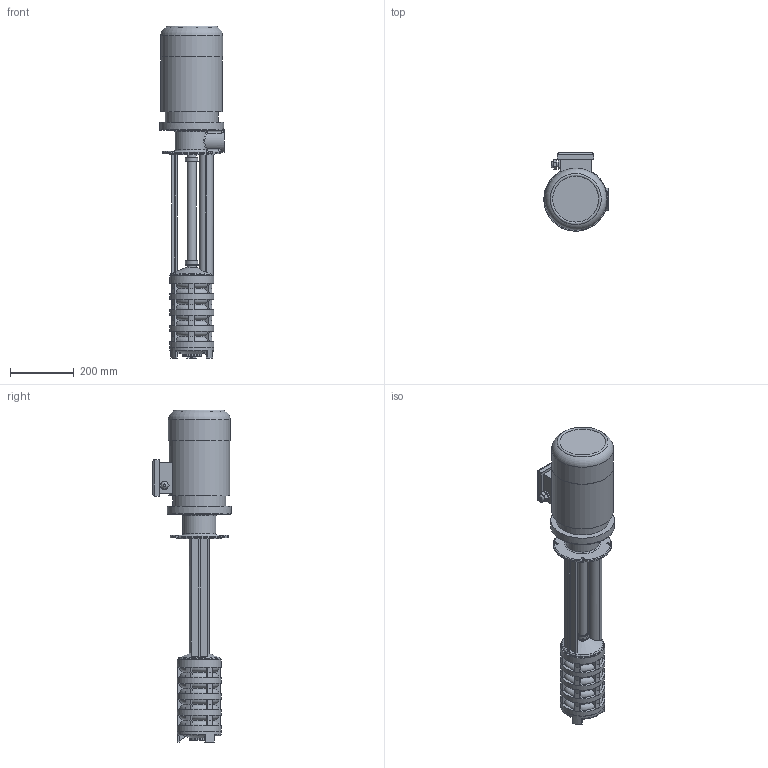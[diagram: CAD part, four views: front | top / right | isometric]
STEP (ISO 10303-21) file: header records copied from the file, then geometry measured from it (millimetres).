
FILE_DESCRIPTION(/* description */ ('Unknown'),/* implementation_level */ '2;1');
FILE_NAME(/* name */ 'gp5-640',/* time_stamp */ '2025-06-12T11:06:59+03:00',/* author */ ('Unknown'),/* organization */ ('Unknown'),/* preprocessor_version */ 'ST-DEVELOPER v16.7',/* originating_system */ 'DEX',/* authorisation */ $);
FILE_SCHEMA (('AUTOMOTIVE_DESIGN {1 0 10303 214 3 1 1}'));
Length unit declared in the file: millimetre
Products named in the file (1): gp5-640
Bounding box: 202 x 245.5 x 1040.5 mm (x, y, z)
Volume: 15435309.6 mm3; surface area: 694187.6 mm2
Topology: 1 solids, 1 shells, 474 faces, 1260 edges, 819 vertices
Faces by surface type: plane 158, cylinder 94, bspline 84, cone 73, torus 65
Full cylindrical faces by diameter (mm): 17 x1, 21.5 x1, 29 x3, 33 x2, 35 x2, 39 x2, 40.5 x2, 45 x1, 47 x1, 60 x1, 137 x1, 139 x5, 140 x1, 165 x1, 192.353 x1, 194 x1, 200 x1
Entity records: 17323 total; most frequent: CARTESIAN_POINT 6092, ORIENTED_EDGE 2374, DIRECTION 2213, EDGE_CURVE 1187, AXIS2_PLACEMENT_3D 842, VERTEX_POINT 803, EDGE_LOOP 566, FACE_BOUND 566
